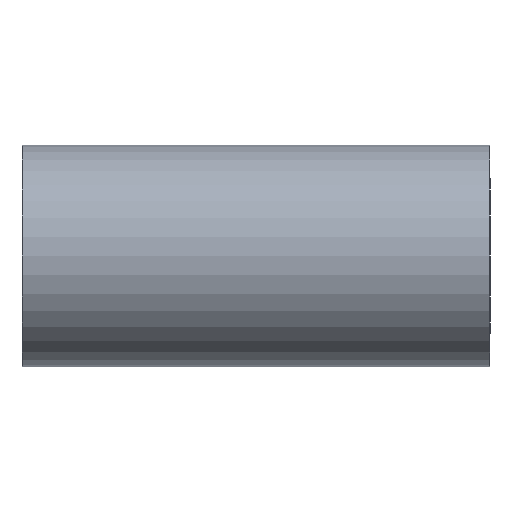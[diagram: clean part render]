
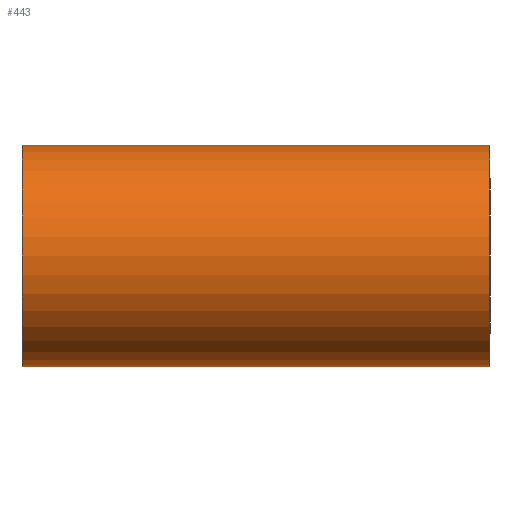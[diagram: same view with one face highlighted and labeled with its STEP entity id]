
A CAD part, left-side view. The second image highlights one B-rep face of the part: STEP entity #443.
In plain terms, the highlighted cylindrical face has radius 9 mm (diameter 18 mm), a partial arc.
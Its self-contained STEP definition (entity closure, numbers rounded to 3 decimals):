
#3 = CARTESIAN_POINT ( 'NONE',  ( -18.5, 0., -9. ) ) ;
#11 = CARTESIAN_POINT ( 'NONE',  ( -18.5, 38., 9. ) ) ;
#28 = CARTESIAN_POINT ( 'NONE',  ( -18.5, 0., 0. ) ) ;
#29 = FACE_OUTER_BOUND ( 'NONE', #617, .T. ) ;
#32 = DIRECTION ( 'NONE',  ( 0., 0., 1. ) ) ;
#44 = VECTOR ( 'NONE', #583, 1000. ) ;
#58 = VERTEX_POINT ( 'NONE', #184 ) ;
#77 = EDGE_CURVE ( 'NONE', #58, #400, #143, .T. ) ;
#94 = AXIS2_PLACEMENT_3D ( 'NONE', #163, #718, #393 ) ;
#133 = CIRCLE ( 'NONE', #166, 9. ) ;
#143 = LINE ( 'NONE', #11, #44 ) ;
#163 = CARTESIAN_POINT ( 'NONE',  ( -18.5, 38., 0. ) ) ;
#165 = CARTESIAN_POINT ( 'NONE',  ( -18.5, 0., 9. ) ) ;
#166 = AXIS2_PLACEMENT_3D ( 'NONE', #650, #323, #32 ) ;
#170 = DIRECTION ( 'NONE',  ( 0., -1., 0. ) ) ;
#182 = CIRCLE ( 'NONE', #675, 9. ) ;
#184 = CARTESIAN_POINT ( 'NONE',  ( -18.5, 38., 9. ) ) ;
#323 = DIRECTION ( 'NONE',  ( 0., 1., 0. ) ) ;
#324 = EDGE_CURVE ( 'NONE', #576, #400, #182, .T. ) ;
#325 = DIRECTION ( 'NONE',  ( 0., 0., 1. ) ) ;
#334 = EDGE_CURVE ( 'NONE', #415, #58, #133, .T. ) ;
#393 = DIRECTION ( 'NONE',  ( 0., 0., -1. ) ) ;
#400 = VERTEX_POINT ( 'NONE', #165 ) ;
#408 = ORIENTED_EDGE ( 'NONE', *, *, #334, .F. ) ;
#415 = VERTEX_POINT ( 'NONE', #512 ) ;
#443 = ADVANCED_FACE ( 'NONE', ( #29 ), #478, .T. ) ;
#444 = DIRECTION ( 'NONE',  ( 0., 1., 0. ) ) ;
#478 = CYLINDRICAL_SURFACE ( 'NONE', #94, 9. ) ;
#486 = ORIENTED_EDGE ( 'NONE', *, *, #665, .T. ) ;
#495 = ORIENTED_EDGE ( 'NONE', *, *, #324, .T. ) ;
#512 = CARTESIAN_POINT ( 'NONE',  ( -18.5, 38., -9. ) ) ;
#538 = ORIENTED_EDGE ( 'NONE', *, *, #77, .F. ) ;
#558 = VECTOR ( 'NONE', #170, 1000. ) ;
#576 = VERTEX_POINT ( 'NONE', #3 ) ;
#583 = DIRECTION ( 'NONE',  ( 0., -1., 0. ) ) ;
#617 = EDGE_LOOP ( 'NONE', ( #495, #538, #408, #486 ) ) ;
#633 = CARTESIAN_POINT ( 'NONE',  ( -18.5, 38., -9. ) ) ;
#650 = CARTESIAN_POINT ( 'NONE',  ( -18.5, 38., 0. ) ) ;
#665 = EDGE_CURVE ( 'NONE', #415, #576, #701, .T. ) ;
#675 = AXIS2_PLACEMENT_3D ( 'NONE', #28, #444, #325 ) ;
#701 = LINE ( 'NONE', #633, #558 ) ;
#718 = DIRECTION ( 'NONE',  ( 0., -1., 0. ) ) ;
